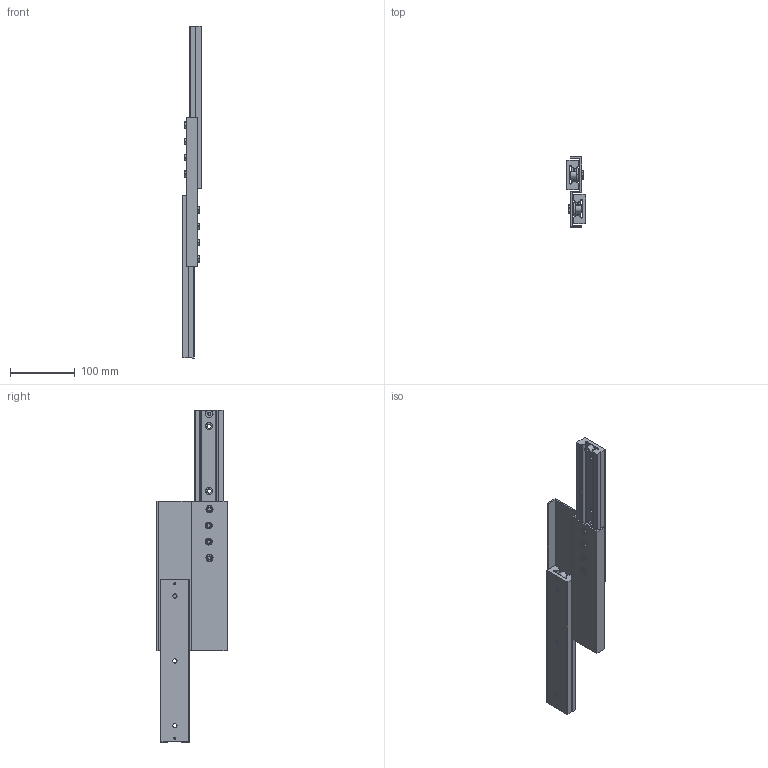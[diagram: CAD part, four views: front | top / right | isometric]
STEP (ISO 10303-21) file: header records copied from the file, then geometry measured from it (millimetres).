
FILE_DESCRIPTION (( 'STEP AP214' ), '1' );
FILE_NAME ('LSIM45DV.STEP', '2020-04-02T07:54:44', ( '' ), ( '' ), 'SwSTEP 2.0', 'SolidWorks 2019', '' );
FILE_SCHEMA (( 'AUTOMOTIVE_DESIGN' ));
Length unit declared in the file: millimetre
Products named in the file (4): LSIM45ストッパー; LSIM45DV; LSIM45DVレール; LSIM45DVリテーナ
Assembly tree (7 placements, depth 2):
  LSIM45DV
    LSIM45DVレール  x2
    LSIM45DVリテーナ
    LSIM45ストッパー  x4
Bounding box: 30.2 x 108.2 x 512 mm (x, y, z)
Volume: 389055.3 mm3; surface area: 168960.6 mm2
Topology: 7 solids, 7 shells, 544 faces, 1228 edges, 768 vertices
Faces by surface type: plane 206, cylinder 194, cone 112, torus 32
Entity records: 12528 total; most frequent: CARTESIAN_POINT 2859, DIRECTION 2070, ORIENTED_EDGE 1892, EDGE_CURVE 946, AXIS2_PLACEMENT_3D 879, VERTEX_POINT 580, EDGE_LOOP 492, CIRCLE 442
